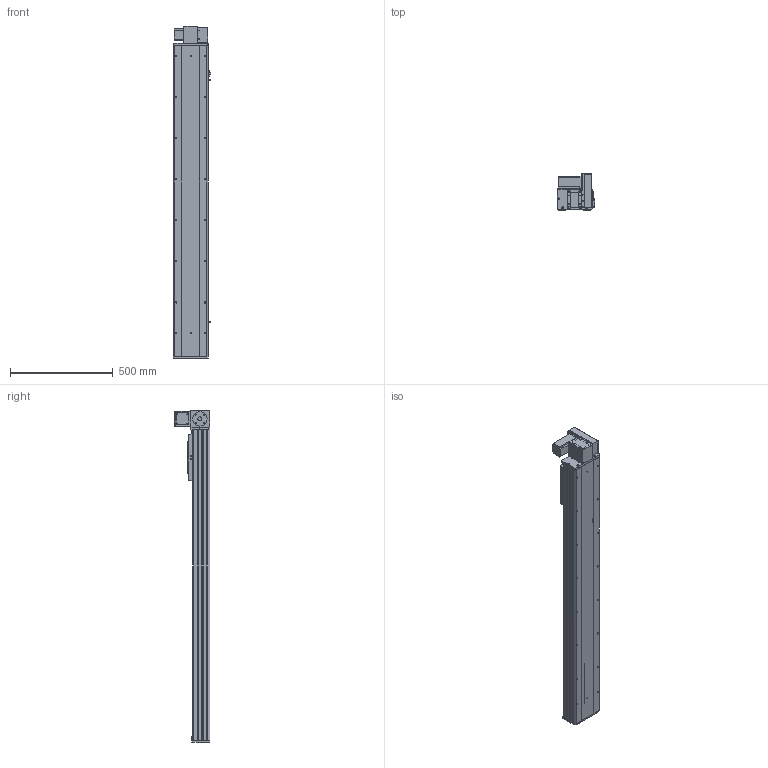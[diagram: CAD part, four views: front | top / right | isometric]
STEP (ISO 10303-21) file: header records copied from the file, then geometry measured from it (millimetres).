
FILE_DESCRIPTION (( 'STEP AP203' ), '1' );
FILE_NAME ('Y170CB-D105-S1200-UR-P400W.STEP', '2020-02-20T04:08:46', ( '微软用户' ), ( '微软中国' ), 'SwSTEP 2.0', 'SolidWorks 2017', '' );
FILE_SCHEMA (( 'CONFIG_CONTROL_DESIGN' ));
Length unit declared in the file: millimetre
Products named in the file (18): 0C--雄赽釱俋欶-170; 0B-萇儂楊擘啣; 70CB-詩湍--; san松下电机400不带刹车----; Y170CB-陔俋离換覜結え---; Y100-135俋离換覜ん--; 70CB-掛极-; Y1埴倛裔; --70CB --喘謫眊楊擘啣-; 17B-耜蚾蟀諉啣----; 70CB-耜裔啣-; 00B-俋欶BM--163; 70C--詩湍揤踡え-; 70B喘謫眊----; 70CB--耜裔; Y170CB-D105-S1200-UR-P400W; 70C-雄赽釱-奻-; B-源倛裔啣
Assembly tree (21 placements, depth 2):
  Y170CB-D105-S1200-UR-P400W
    B-源倛裔啣
    0B-萇儂楊擘啣
    san松下电机400不带刹车----
    70CB-掛极-
    --70CB --喘謫眊楊擘啣-
    70CB-耜裔啣-  x2
    70C--詩湍揤踡え-  x2
    70CB--耜裔
    70C-雄赽釱-奻-
    0C--雄赽釱俋欶-170
    70CB-詩湍--
    Y100-135俋离換覜ん--  x3
    Y170CB-陔俋离換覜結え---
    Y1埴倛裔
    17B-耜蚾蟀諉啣----
    00B-俋欶BM--163
    70B喘謫眊----
Bounding box: 183.5 x 174 x 1616 mm (x, y, z)
Volume: 7327035.3 mm3; surface area: 2630495.6 mm2
Topology: 21 solids, 21 shells, 1015 faces, 2717 edges, 1802 vertices
Faces by surface type: cylinder 529, plane 462, cone 24
Entity records: 32328 total; most frequent: CARTESIAN_POINT 5916, DIRECTION 5258, ORIENTED_EDGE 4916, EDGE_CURVE 2458, AXIS2_PLACEMENT_3D 1928, VERTEX_POINT 1632, VECTOR 1402, LINE 1402
